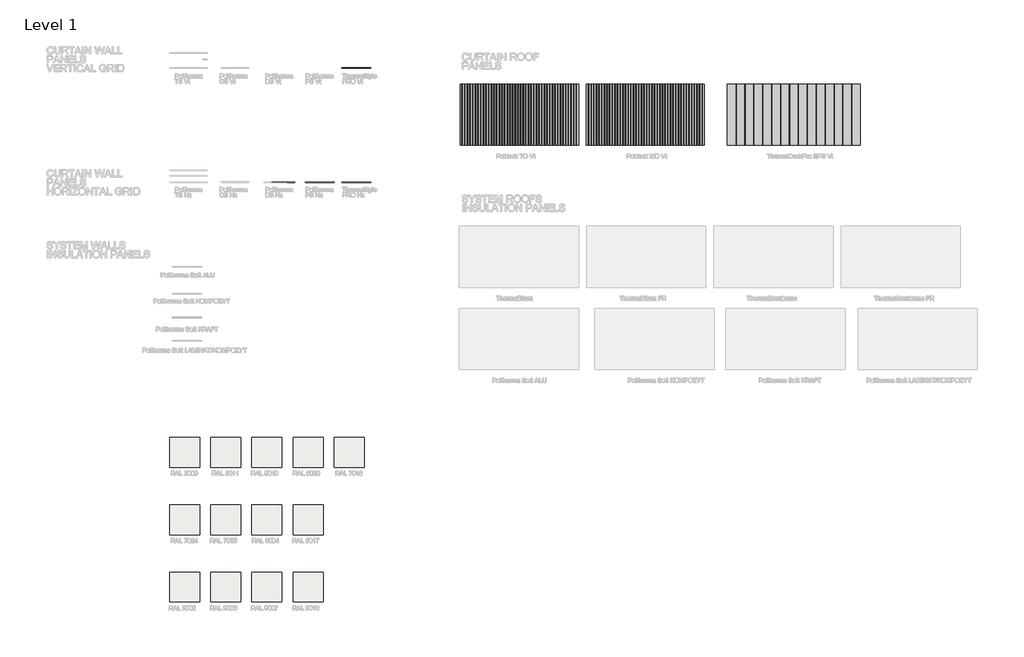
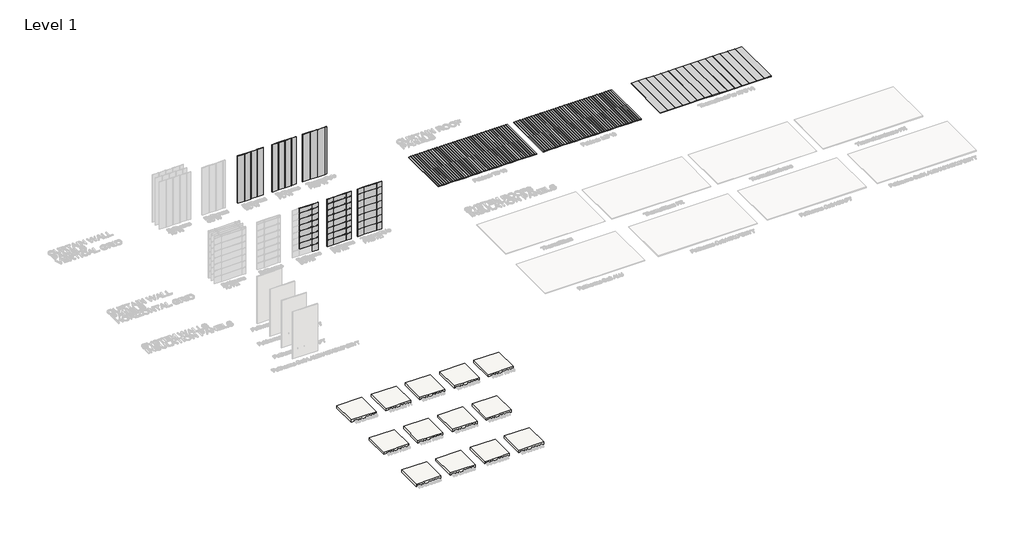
# One storey, part 2 of 27: 117 plates, 13 slabs.
"""IFC4 building model written with IfcOpenShell, lengths in millimetres."""

from ifc_helpers import new_model, si_unit, frame, origin, place, context, project, spatial, polyline, outline, extrude, transform, mapped, element, save
from components import plate_59d68982, plate_f1b753af, plate_dc32cb37, plate_fbea0b83, plate_fd181678, plate_b68348ad, poltherma_ds_100_d88b4380, poltherma_ds_100_de707eb4, poltherma_ds_100_a860b07c, poltherma_ds_100_4dea5682, poltherma_ds_100_0579be61, poltherma_ds_100_3d92d139, poltherma_ds_100_d9578bee, poltherma_ds_100_38a92bd1, poltherma_ps_100_a50b50c9, poltherma_ps_100_e579bfd0, poltherma_ps_100_14a29abd, poltherma_ps_100_926b12da, poltherma_ps_100_4dee80a4, poltherma_ps_100_4c77af7c, poltherma_ps_100_7ae31273, poltherma_ps_100_1a976a6a, poltherma_ps_100_5d9a283f, poltherma_ps_100_8c863d29, poltherma_ps_100_319f2d1b, poltherma_ps_100_62ddb752, thermadeck_pro_100_5b1dee86, thermadeck_pro_100_23aa4f16, thermadeck_pro_100_f66c599b, thermadeck_pro_100_954906a2, thermastyle_pro_100_76ed6ceb, thermastyle_pro_100_ce6bf896, thermastyle_pro_100_3951d848, thermastyle_pro_100_5ec8e953, thermastyle_pro_100_93a10a88, thermastyle_pro_100_44c17304, thermastyle_pro_100_a7823f5c, thermastyle_pro_100_2d84ebb2, thermastyle_pro_100_359290db, thermastyle_pro_100_d2d4a927, thermastyle_pro_100_f7ab4d4c, thermastyle_pro_100_ea0365a7

model = new_model("IFC4")

# Units and contexts
model_context = context("Model", 3, world=origin())
ifc_project = project(units=[si_unit("LENGTHUNIT", "METRE", prefix="MILLI")], contexts=[model_context])

# Site, building, storey
site = spatial("IfcSite", under=ifc_project)
building = spatial("IfcBuilding", under=site)
storey = spatial("IfcBuildingStorey", under=building, Name="Level 1", Elevation=0.0)

# Plates
placement = place(None, origin())
plate_shape = plate_59d68982(model_context)
element("IfcPlate", 1, ObjectType="Europanels_PolDeck TD T_Vt : PolDeck TD T 100/135", at=placement, inside=storey, context=model_context, shape_type="MappedRepresentation", body=[
    mapped(plate_shape, transform((26690.5428639, -5173.7876357, -69.4239875), x_axis=(1.0, 0.0, 0.0), y_axis=(0.0, 0.0, 1.0), z_axis=(0.0, -1.0, 0.0))),
])
plate_2_shape = plate_f1b753af(model_context)
element("IfcPlate", 2, ObjectType="Europanels_PolDeck TD T_Vt : PolDeck TD T 100/135", at=placement, inside=storey, context=model_context, shape_type="MappedRepresentation", body=[
    mapped(plate_2_shape, transform((27755.5428639, -5173.7876357, -69.4239875), x_axis=(1.0, 0.0, 0.0), y_axis=(0.0, 0.0, 1.0), z_axis=(0.0, -1.0, 0.0))),
])
element("IfcPlate", 3, ObjectType="Europanels_PolDeck TD T_Vt : PolDeck TD T 100/135", at=placement, inside=storey, context=model_context, shape_type="MappedRepresentation", body=[
    mapped(plate_2_shape, transform((28820.5428639, -5173.7876357, -69.4239875), x_axis=(1.0, 0.0, 0.0), y_axis=(0.0, 0.0, 1.0), z_axis=(0.0, -1.0, 0.0))),
])
element("IfcPlate", 4, ObjectType="Europanels_PolDeck TD T_Vt : PolDeck TD T 100/135", at=placement, inside=storey, context=model_context, shape_type="MappedRepresentation", body=[
    mapped(plate_2_shape, transform((29885.5428639, -5173.7876357, -69.4239875), x_axis=(1.0, 0.0, 0.0), y_axis=(0.0, 0.0, 1.0), z_axis=(0.0, -1.0, 0.0))),
])
element("IfcPlate", 5, ObjectType="Europanels_PolDeck TD T_Vt : PolDeck TD T 100/135", at=placement, inside=storey, context=model_context, shape_type="MappedRepresentation", body=[
    mapped(plate_2_shape, transform((30950.5428639, -5173.7876357, -69.4239875), x_axis=(1.0, 0.0, 0.0), y_axis=(0.0, 0.0, 1.0), z_axis=(0.0, -1.0, 0.0))),
])
element("IfcPlate", 6, ObjectType="Europanels_PolDeck TD T_Vt : PolDeck TD T 100/135", at=placement, inside=storey, context=model_context, shape_type="MappedRepresentation", body=[
    mapped(plate_2_shape, transform((32015.5428639, -5173.7876357, -69.4239875), x_axis=(1.0, 0.0, 0.0), y_axis=(0.0, 0.0, 1.0), z_axis=(0.0, -1.0, 0.0))),
])
element("IfcPlate", 7, ObjectType="Europanels_PolDeck TD T_Vt : PolDeck TD T 100/135", at=placement, inside=storey, context=model_context, shape_type="MappedRepresentation", body=[
    mapped(plate_2_shape, transform((33080.5428639, -5173.7876357, -69.4239875), x_axis=(1.0, 0.0, 0.0), y_axis=(0.0, 0.0, 1.0), z_axis=(0.0, -1.0, 0.0))),
])
element("IfcPlate", 8, ObjectType="Europanels_PolDeck TD T_Vt : PolDeck TD T 100/135", at=placement, inside=storey, context=model_context, shape_type="MappedRepresentation", body=[
    mapped(plate_2_shape, transform((34145.5428639, -5173.7876357, -69.4239875), x_axis=(1.0, 0.0, 0.0), y_axis=(0.0, 0.0, 1.0), z_axis=(0.0, -1.0, 0.0))),
])
element("IfcPlate", 9, ObjectType="Europanels_PolDeck TD T_Vt : PolDeck TD T 100/135", at=placement, inside=storey, context=model_context, shape_type="MappedRepresentation", body=[
    mapped(plate_2_shape, transform((35210.5428639, -5173.7876357, -69.4239875), x_axis=(1.0, 0.0, 0.0), y_axis=(0.0, 0.0, 1.0), z_axis=(0.0, -1.0, 0.0))),
])
element("IfcPlate", 10, ObjectType="Europanels_PolDeck TD T_Vt : PolDeck TD T 100/135", at=placement, inside=storey, context=model_context, shape_type="MappedRepresentation", body=[
    mapped(plate_2_shape, transform((36275.5428639, -5173.7876357, -69.4239875), x_axis=(1.0, 0.0, 0.0), y_axis=(0.0, 0.0, 1.0), z_axis=(0.0, -1.0, 0.0))),
])
element("IfcPlate", 11, ObjectType="Europanels_PolDeck TD T_Vt : PolDeck TD T 100/135", at=placement, inside=storey, context=model_context, shape_type="MappedRepresentation", body=[
    mapped(plate_2_shape, transform((37340.5428639, -5173.7876357, -69.4239875), x_axis=(1.0, 0.0, 0.0), y_axis=(0.0, 0.0, 1.0), z_axis=(0.0, -1.0, 0.0))),
])
element("IfcPlate", 12, ObjectType="Europanels_PolDeck TD T_Vt : PolDeck TD T 100/135", at=placement, inside=storey, context=model_context, shape_type="MappedRepresentation", body=[
    mapped(plate_2_shape, transform((38405.5428639, -5173.7876357, -69.4239875), x_axis=(1.0, 0.0, 0.0), y_axis=(0.0, 0.0, 1.0), z_axis=(0.0, -1.0, 0.0))),
])
element("IfcPlate", 13, ObjectType="Europanels_PolDeck TD T_Vt : PolDeck TD T 100/135", at=placement, inside=storey, context=model_context, shape_type="MappedRepresentation", body=[
    mapped(plate_2_shape, transform((39470.5428639, -5173.7876357, -69.4239875), x_axis=(1.0, 0.0, 0.0), y_axis=(0.0, 0.0, 1.0), z_axis=(0.0, -1.0, 0.0))),
])
element("IfcPlate", 14, ObjectType="Europanels_PolDeck TD T_Vt : PolDeck TD T 100/135", at=placement, inside=storey, context=model_context, shape_type="MappedRepresentation", body=[
    mapped(plate_2_shape, transform((40535.5428639, -5173.7876357, -69.4239875), x_axis=(1.0, 0.0, 0.0), y_axis=(0.0, 0.0, 1.0), z_axis=(0.0, -1.0, 0.0))),
])
plate_3_shape = plate_dc32cb37(model_context)
element("IfcPlate", 15, ObjectType="Europanels_PolDeck TD T_Vt : PolDeck TD T 100/135", at=placement, inside=storey, context=model_context, shape_type="MappedRepresentation", body=[
    mapped(plate_3_shape, transform((41578.5872578, -5173.7876357, -69.4239875), x_axis=(1.0, 0.0, 0.0), y_axis=(0.0, 0.0, 1.0), z_axis=(0.0, -1.0, 0.0))),
])
plate_4_shape = plate_fbea0b83(model_context)
element("IfcPlate", 16, ObjectType="Europanels_PolDeck MD T_Vt : PolDeck MD T 100/135", at=placement, inside=storey, context=model_context, shape_type="MappedRepresentation", body=[
    mapped(plate_4_shape, transform((43589.267781, -5173.7876357, -69.4239875), x_axis=(1.0, 0.0, 0.0), y_axis=(0.0, 0.0, 1.0), z_axis=(0.0, -1.0, 0.0))),
])
plate_5_shape = plate_fd181678(model_context)
element("IfcPlate", 17, ObjectType="Europanels_PolDeck MD T_Vt : PolDeck MD T 100/135", at=placement, inside=storey, context=model_context, shape_type="MappedRepresentation", body=[
    mapped(plate_5_shape, transform((44649.267781, -5173.7876357, -69.4239875), x_axis=(1.0, 0.0, 0.0), y_axis=(0.0, 0.0, 1.0), z_axis=(0.0, -1.0, 0.0))),
])
element("IfcPlate", 18, ObjectType="Europanels_PolDeck MD T_Vt : PolDeck MD T 100/135", at=placement, inside=storey, context=model_context, shape_type="MappedRepresentation", body=[
    mapped(plate_5_shape, transform((45709.267781, -5173.7876357, -69.4239875), x_axis=(1.0, 0.0, 0.0), y_axis=(0.0, 0.0, 1.0), z_axis=(0.0, -1.0, 0.0))),
])
element("IfcPlate", 19, ObjectType="Europanels_PolDeck MD T_Vt : PolDeck MD T 100/135", at=placement, inside=storey, context=model_context, shape_type="MappedRepresentation", body=[
    mapped(plate_5_shape, transform((46769.267781, -5173.7876357, -69.4239875), x_axis=(1.0, 0.0, 0.0), y_axis=(0.0, 0.0, 1.0), z_axis=(0.0, -1.0, 0.0))),
])
element("IfcPlate", 20, ObjectType="Europanels_PolDeck MD T_Vt : PolDeck MD T 100/135", at=placement, inside=storey, context=model_context, shape_type="MappedRepresentation", body=[
    mapped(plate_5_shape, transform((47829.267781, -5173.7876357, -69.4239875), x_axis=(1.0, 0.0, 0.0), y_axis=(0.0, 0.0, 1.0), z_axis=(0.0, -1.0, 0.0))),
])
element("IfcPlate", 21, ObjectType="Europanels_PolDeck MD T_Vt : PolDeck MD T 100/135", at=placement, inside=storey, context=model_context, shape_type="MappedRepresentation", body=[
    mapped(plate_5_shape, transform((48889.267781, -5173.7876357, -69.4239875), x_axis=(1.0, 0.0, 0.0), y_axis=(0.0, 0.0, 1.0), z_axis=(0.0, -1.0, 0.0))),
])
element("IfcPlate", 22, ObjectType="Europanels_PolDeck MD T_Vt : PolDeck MD T 100/135", at=placement, inside=storey, context=model_context, shape_type="MappedRepresentation", body=[
    mapped(plate_5_shape, transform((49949.267781, -5173.7876357, -69.4239875), x_axis=(1.0, 0.0, 0.0), y_axis=(0.0, 0.0, 1.0), z_axis=(0.0, -1.0, 0.0))),
])
element("IfcPlate", 23, ObjectType="Europanels_PolDeck MD T_Vt : PolDeck MD T 100/135", at=placement, inside=storey, context=model_context, shape_type="MappedRepresentation", body=[
    mapped(plate_5_shape, transform((51009.267781, -5173.7876357, -69.4239875), x_axis=(1.0, 0.0, 0.0), y_axis=(0.0, 0.0, 1.0), z_axis=(0.0, -1.0, 0.0))),
])
element("IfcPlate", 24, ObjectType="Europanels_PolDeck MD T_Vt : PolDeck MD T 100/135", at=placement, inside=storey, context=model_context, shape_type="MappedRepresentation", body=[
    mapped(plate_5_shape, transform((52069.267781, -5173.7876357, -69.4239875), x_axis=(1.0, 0.0, 0.0), y_axis=(0.0, 0.0, 1.0), z_axis=(0.0, -1.0, 0.0))),
])
element("IfcPlate", 25, ObjectType="Europanels_PolDeck MD T_Vt : PolDeck MD T 100/135", at=placement, inside=storey, context=model_context, shape_type="MappedRepresentation", body=[
    mapped(plate_5_shape, transform((53129.267781, -5173.7876357, -69.4239875), x_axis=(1.0, 0.0, 0.0), y_axis=(0.0, 0.0, 1.0), z_axis=(0.0, -1.0, 0.0))),
])
element("IfcPlate", 26, ObjectType="Europanels_PolDeck MD T_Vt : PolDeck MD T 100/135", at=placement, inside=storey, context=model_context, shape_type="MappedRepresentation", body=[
    mapped(plate_5_shape, transform((54189.267781, -5173.7876357, -69.4239875), x_axis=(1.0, 0.0, 0.0), y_axis=(0.0, 0.0, 1.0), z_axis=(0.0, -1.0, 0.0))),
])
element("IfcPlate", 27, ObjectType="Europanels_PolDeck MD T_Vt : PolDeck MD T 100/135", at=placement, inside=storey, context=model_context, shape_type="MappedRepresentation", body=[
    mapped(plate_5_shape, transform((55249.267781, -5173.7876357, -69.4239875), x_axis=(1.0, 0.0, 0.0), y_axis=(0.0, 0.0, 1.0), z_axis=(0.0, -1.0, 0.0))),
])
element("IfcPlate", 28, ObjectType="Europanels_PolDeck MD T_Vt : PolDeck MD T 100/135", at=placement, inside=storey, context=model_context, shape_type="MappedRepresentation", body=[
    mapped(plate_5_shape, transform((56309.267781, -5173.7876357, -69.4239875), x_axis=(1.0, 0.0, 0.0), y_axis=(0.0, 0.0, 1.0), z_axis=(0.0, -1.0, 0.0))),
])
element("IfcPlate", 29, ObjectType="Europanels_PolDeck MD T_Vt : PolDeck MD T 100/135", at=placement, inside=storey, context=model_context, shape_type="MappedRepresentation", body=[
    mapped(plate_5_shape, transform((57369.267781, -5173.7876357, -69.4239875), x_axis=(1.0, 0.0, 0.0), y_axis=(0.0, 0.0, 1.0), z_axis=(0.0, -1.0, 0.0))),
])
plate_6_shape = plate_b68348ad(model_context)
element("IfcPlate", 30, ObjectType="Europanels_PolDeck MD T_Vt : PolDeck MD T 100/135", at=placement, inside=storey, context=model_context, shape_type="MappedRepresentation", body=[
    mapped(plate_6_shape, transform((58367.6899424, -5173.7876357, -69.4239875), x_axis=(1.0, 0.0, 0.0), y_axis=(0.0, 0.0, 1.0), z_axis=(0.0, -1.0, 0.0))),
])
poltherma_ds_100_shape = poltherma_ds_100_d88b4380(model_context)
element("IfcPlate", 31, ObjectType="Europanels_Poltherma DS_Hz : PolTherma DS 100", at=placement, inside=storey, context=model_context, shape_type="MappedRepresentation", body=[
    mapped(poltherma_ds_100_shape, transform((3611.7874403, -18297.4348092, 0.0), x_axis=(1.0, 0.0, 0.0), y_axis=(0.0, 1.0, 0.0), z_axis=(0.0, 0.0, 1.0))),
])
poltherma_ds_100_2_shape = poltherma_ds_100_de707eb4(model_context)
element("IfcPlate", 32, ObjectType="Europanels_Poltherma DS_Hz : PolTherma DS 100", at=placement, inside=storey, context=model_context, shape_type="MappedRepresentation", body=[
    mapped(poltherma_ds_100_2_shape, transform((3611.7874403, -18297.4348092, 1025.0), x_axis=(1.0, 0.0, 0.0), y_axis=(0.0, 1.0, 0.0), z_axis=(0.0, 0.0, 1.0))),
])
element("IfcPlate", 33, ObjectType="Europanels_Poltherma DS_Hz : PolTherma DS 100", at=placement, inside=storey, context=model_context, shape_type="MappedRepresentation", body=[
    mapped(poltherma_ds_100_2_shape, transform((3611.7874403, -18297.4348092, 2050.0), x_axis=(1.0, 0.0, 0.0), y_axis=(0.0, 1.0, 0.0), z_axis=(0.0, 0.0, 1.0))),
])
element("IfcPlate", 34, ObjectType="Europanels_Poltherma DS_Hz : PolTherma DS 100", at=placement, inside=storey, context=model_context, shape_type="MappedRepresentation", body=[
    mapped(poltherma_ds_100_2_shape, transform((3611.7874403, -18297.4348092, 3075.0), x_axis=(1.0, 0.0, 0.0), y_axis=(0.0, 1.0, 0.0), z_axis=(0.0, 0.0, 1.0))),
])
element("IfcPlate", 35, ObjectType="Europanels_Poltherma DS_Hz : PolTherma DS 100", at=placement, inside=storey, context=model_context, shape_type="MappedRepresentation", body=[
    mapped(poltherma_ds_100_2_shape, transform((3611.7874403, -18297.4348092, 4100.0), x_axis=(1.0, 0.0, 0.0), y_axis=(0.0, 1.0, 0.0), z_axis=(0.0, 0.0, 1.0))),
])
element("IfcPlate", 36, ObjectType="Europanels_Poltherma DS_Hz : PolTherma DS 100", at=placement, inside=storey, context=model_context, shape_type="MappedRepresentation", body=[
    mapped(poltherma_ds_100_2_shape, transform((3611.7874403, -18297.4348092, 5125.0), x_axis=(1.0, 0.0, 0.0), y_axis=(0.0, 1.0, 0.0), z_axis=(0.0, 0.0, 1.0))),
])
element("IfcPlate", 37, ObjectType="Europanels_Poltherma DS_Hz : PolTherma DS 100", at=placement, inside=storey, context=model_context, shape_type="MappedRepresentation", body=[
    mapped(poltherma_ds_100_2_shape, transform((3611.7874403, -18297.4348092, 6150.0), x_axis=(1.0, 0.0, 0.0), y_axis=(0.0, 1.0, 0.0), z_axis=(0.0, 0.0, 1.0))),
])
poltherma_ds_100_3_shape = poltherma_ds_100_a860b07c(model_context)
element("IfcPlate", 38, ObjectType="Europanels_Poltherma DS_Hz : PolTherma DS 100", at=placement, inside=storey, context=model_context, shape_type="MappedRepresentation", body=[
    mapped(poltherma_ds_100_3_shape, transform((2074.2874403, -18297.4348092, 1025.0), x_axis=(1.0, 0.0, 0.0), y_axis=(0.0, 1.0, 0.0), z_axis=(0.0, 0.0, 1.0))),
])
element("IfcPlate", 39, ObjectType="Europanels_Poltherma DS_Hz : PolTherma DS 100", at=placement, inside=storey, context=model_context, shape_type="MappedRepresentation", body=[
    mapped(poltherma_ds_100_3_shape, transform((2074.2874403, -18297.4348092, 2050.0), x_axis=(1.0, 0.0, 0.0), y_axis=(0.0, 1.0, 0.0), z_axis=(0.0, 0.0, 1.0))),
])
element("IfcPlate", 40, ObjectType="Europanels_Poltherma DS_Hz : PolTherma DS 100", at=placement, inside=storey, context=model_context, shape_type="MappedRepresentation", body=[
    mapped(poltherma_ds_100_3_shape, transform((2074.2874403, -18297.4348092, 3075.0), x_axis=(1.0, 0.0, 0.0), y_axis=(0.0, 1.0, 0.0), z_axis=(0.0, 0.0, 1.0))),
])
element("IfcPlate", 41, ObjectType="Europanels_Poltherma DS_Hz : PolTherma DS 100", at=placement, inside=storey, context=model_context, shape_type="MappedRepresentation", body=[
    mapped(poltherma_ds_100_3_shape, transform((2074.2874403, -18297.4348092, 4100.0), x_axis=(1.0, 0.0, 0.0), y_axis=(0.0, 1.0, 0.0), z_axis=(0.0, 0.0, 1.0))),
])
element("IfcPlate", 42, ObjectType="Europanels_Poltherma DS_Hz : PolTherma DS 100", at=placement, inside=storey, context=model_context, shape_type="MappedRepresentation", body=[
    mapped(poltherma_ds_100_3_shape, transform((2074.2874403, -18297.4348092, 5125.0), x_axis=(1.0, 0.0, 0.0), y_axis=(0.0, 1.0, 0.0), z_axis=(0.0, 0.0, 1.0))),
])
element("IfcPlate", 43, ObjectType="Europanels_Poltherma DS_Hz : PolTherma DS 100", at=placement, inside=storey, context=model_context, shape_type="MappedRepresentation", body=[
    mapped(poltherma_ds_100_3_shape, transform((2074.2874403, -18297.4348092, 6150.0), x_axis=(1.0, 0.0, 0.0), y_axis=(0.0, 1.0, 0.0), z_axis=(0.0, 0.0, 1.0))),
])
poltherma_ds_100_4_shape = poltherma_ds_100_4dea5682(model_context)
element("IfcPlate", 44, ObjectType="Europanels_Poltherma DS_Hz : PolTherma DS 100", at=placement, inside=storey, context=model_context, shape_type="MappedRepresentation", body=[
    mapped(poltherma_ds_100_4_shape, transform((3611.7874403, -18297.4348092, 7175.0), x_axis=(1.0, 0.0, 0.0), y_axis=(0.0, 1.0, 0.0), z_axis=(0.0, 0.0, 1.0))),
])
poltherma_ds_100_5_shape = poltherma_ds_100_0579be61(model_context)
element("IfcPlate", 45, ObjectType="Europanels_Poltherma DS_Hz : PolTherma DS 100", at=placement, inside=storey, context=model_context, shape_type="MappedRepresentation", body=[
    mapped(poltherma_ds_100_5_shape, transform((2074.2874403, -18297.4348092, 7175.0), x_axis=(1.0, 0.0, 0.0), y_axis=(0.0, 1.0, 0.0), z_axis=(0.0, 0.0, 1.0))),
])
poltherma_ds_100_6_shape = poltherma_ds_100_3d92d139(model_context)
element("IfcPlate", 46, ObjectType="Europanels_Poltherma DS_Vt : PolTherma DS 100", at=placement, inside=storey, context=model_context, shape_type="MappedRepresentation", body=[
    mapped(poltherma_ds_100_6_shape, transform((536.7874403, -2997.4348092, 0.0), x_axis=(1.0, 0.0, 0.0), y_axis=(0.0, 1.0, 0.0), z_axis=(0.0, 0.0, 1.0))),
])
poltherma_ds_100_7_shape = poltherma_ds_100_d9578bee(model_context)
element("IfcPlate", 47, ObjectType="Europanels_Poltherma DS_Vt : PolTherma DS 100", at=placement, inside=storey, context=model_context, shape_type="MappedRepresentation", body=[
    mapped(poltherma_ds_100_7_shape, transform((1561.7874403, -2997.4348092, 0.0), x_axis=(1.0, 0.0, 0.0), y_axis=(0.0, 1.0, 0.0), z_axis=(0.0, 0.0, 1.0))),
])
element("IfcPlate", 48, ObjectType="Europanels_Poltherma DS_Vt : PolTherma DS 100", at=placement, inside=storey, context=model_context, shape_type="MappedRepresentation", body=[
    mapped(poltherma_ds_100_7_shape, transform((2586.7874403, -2997.4348092, 0.0), x_axis=(1.0, 0.0, 0.0), y_axis=(0.0, 1.0, 0.0), z_axis=(0.0, 0.0, 1.0))),
])
poltherma_ds_100_8_shape = poltherma_ds_100_38a92bd1(model_context)
element("IfcPlate", 49, ObjectType="Europanels_Poltherma DS_Vt : PolTherma DS 100", at=placement, inside=storey, context=model_context, shape_type="MappedRepresentation", body=[
    mapped(poltherma_ds_100_8_shape, transform((3611.7874403, -2997.4348092, 0.0), x_axis=(1.0, 0.0, 0.0), y_axis=(0.0, 1.0, 0.0), z_axis=(0.0, 0.0, 1.0))),
])
poltherma_ps_100_shape = poltherma_ps_100_a50b50c9(model_context)
element("IfcPlate", 50, ObjectType="Europanels_Poltherma PS_Hz : PolTherma PS 100", at=placement, inside=storey, context=model_context, shape_type="MappedRepresentation", body=[
    mapped(poltherma_ps_100_shape, transform((6036.7874403, -18297.4348092, 0.0), x_axis=(1.0, 0.0, 0.0), y_axis=(0.0, 1.0, 0.0), z_axis=(0.0, 0.0, 1.0))),
])
poltherma_ps_100_2_shape = poltherma_ps_100_e579bfd0(model_context)
element("IfcPlate", 51, ObjectType="Europanels_Poltherma PS_Hz : PolTherma PS 100", at=placement, inside=storey, context=model_context, shape_type="MappedRepresentation", body=[
    mapped(poltherma_ps_100_2_shape, transform((7574.2874403, -18297.4348092, 0.0), x_axis=(1.0, 0.0, 0.0), y_axis=(0.0, 1.0, 0.0), z_axis=(0.0, 0.0, 1.0))),
])
poltherma_ps_100_3_shape = poltherma_ps_100_14a29abd(model_context)
element("IfcPlate", 52, ObjectType="Europanels_Poltherma PS_Hz : PolTherma PS 100", at=placement, inside=storey, context=model_context, shape_type="MappedRepresentation", body=[
    mapped(poltherma_ps_100_3_shape, transform((9011.7874403, -18297.4348092, 0.0), x_axis=(1.0, 0.0, 0.0), y_axis=(0.0, 1.0, 0.0), z_axis=(0.0, 0.0, 1.0))),
])
poltherma_ps_100_4_shape = poltherma_ps_100_926b12da(model_context)
element("IfcPlate", 53, ObjectType="Europanels_Poltherma PS_Hz : PolTherma PS 100", at=placement, inside=storey, context=model_context, shape_type="MappedRepresentation", body=[
    mapped(poltherma_ps_100_4_shape, transform((6036.7874403, -18297.4348092, 1025.0), x_axis=(1.0, 0.0, 0.0), y_axis=(0.0, 1.0, 0.0), z_axis=(0.0, 0.0, 1.0))),
])
element("IfcPlate", 54, ObjectType="Europanels_Poltherma PS_Hz : PolTherma PS 100", at=placement, inside=storey, context=model_context, shape_type="MappedRepresentation", body=[
    mapped(poltherma_ps_100_4_shape, transform((6036.7874403, -18297.4348092, 2050.0), x_axis=(1.0, 0.0, 0.0), y_axis=(0.0, 1.0, 0.0), z_axis=(0.0, 0.0, 1.0))),
])
element("IfcPlate", 55, ObjectType="Europanels_Poltherma PS_Hz : PolTherma PS 100", at=placement, inside=storey, context=model_context, shape_type="MappedRepresentation", body=[
    mapped(poltherma_ps_100_4_shape, transform((6036.7874403, -18297.4348092, 3075.0), x_axis=(1.0, 0.0, 0.0), y_axis=(0.0, 1.0, 0.0), z_axis=(0.0, 0.0, 1.0))),
])
element("IfcPlate", 56, ObjectType="Europanels_Poltherma PS_Hz : PolTherma PS 100", at=placement, inside=storey, context=model_context, shape_type="MappedRepresentation", body=[
    mapped(poltherma_ps_100_4_shape, transform((6036.7874403, -18297.4348092, 4100.0), x_axis=(1.0, 0.0, 0.0), y_axis=(0.0, 1.0, 0.0), z_axis=(0.0, 0.0, 1.0))),
])
element("IfcPlate", 57, ObjectType="Europanels_Poltherma PS_Hz : PolTherma PS 100", at=placement, inside=storey, context=model_context, shape_type="MappedRepresentation", body=[
    mapped(poltherma_ps_100_4_shape, transform((6036.7874403, -18297.4348092, 5125.0), x_axis=(1.0, 0.0, 0.0), y_axis=(0.0, 1.0, 0.0), z_axis=(0.0, 0.0, 1.0))),
])
element("IfcPlate", 58, ObjectType="Europanels_Poltherma PS_Hz : PolTherma PS 100", at=placement, inside=storey, context=model_context, shape_type="MappedRepresentation", body=[
    mapped(poltherma_ps_100_4_shape, transform((6036.7874403, -18297.4348092, 6150.0), x_axis=(1.0, 0.0, 0.0), y_axis=(0.0, 1.0, 0.0), z_axis=(0.0, 0.0, 1.0))),
])
poltherma_ps_100_5_shape = poltherma_ps_100_4dee80a4(model_context)
element("IfcPlate", 59, ObjectType="Europanels_Poltherma PS_Hz : PolTherma PS 100", at=placement, inside=storey, context=model_context, shape_type="MappedRepresentation", body=[
    mapped(poltherma_ps_100_5_shape, transform((7574.2874403, -18297.4348092, 1025.0), x_axis=(1.0, 0.0, 0.0), y_axis=(0.0, 1.0, 0.0), z_axis=(0.0, 0.0, 1.0))),
])
element("IfcPlate", 60, ObjectType="Europanels_Poltherma PS_Hz : PolTherma PS 100", at=placement, inside=storey, context=model_context, shape_type="MappedRepresentation", body=[
    mapped(poltherma_ps_100_5_shape, transform((7574.2874403, -18297.4348092, 2050.0), x_axis=(1.0, 0.0, 0.0), y_axis=(0.0, 1.0, 0.0), z_axis=(0.0, 0.0, 1.0))),
])
element("IfcPlate", 61, ObjectType="Europanels_Poltherma PS_Hz : PolTherma PS 100", at=placement, inside=storey, context=model_context, shape_type="MappedRepresentation", body=[
    mapped(poltherma_ps_100_5_shape, transform((7574.2874403, -18297.4348092, 3075.0), x_axis=(1.0, 0.0, 0.0), y_axis=(0.0, 1.0, 0.0), z_axis=(0.0, 0.0, 1.0))),
])
element("IfcPlate", 62, ObjectType="Europanels_Poltherma PS_Hz : PolTherma PS 100", at=placement, inside=storey, context=model_context, shape_type="MappedRepresentation", body=[
    mapped(poltherma_ps_100_5_shape, transform((7574.2874403, -18297.4348092, 4100.0), x_axis=(1.0, 0.0, 0.0), y_axis=(0.0, 1.0, 0.0), z_axis=(0.0, 0.0, 1.0))),
])
element("IfcPlate", 63, ObjectType="Europanels_Poltherma PS_Hz : PolTherma PS 100", at=placement, inside=storey, context=model_context, shape_type="MappedRepresentation", body=[
    mapped(poltherma_ps_100_5_shape, transform((7574.2874403, -18297.4348092, 5125.0), x_axis=(1.0, 0.0, 0.0), y_axis=(0.0, 1.0, 0.0), z_axis=(0.0, 0.0, 1.0))),
])
element("IfcPlate", 64, ObjectType="Europanels_Poltherma PS_Hz : PolTherma PS 100", at=placement, inside=storey, context=model_context, shape_type="MappedRepresentation", body=[
    mapped(poltherma_ps_100_5_shape, transform((7574.2874403, -18297.4348092, 6150.0), x_axis=(1.0, 0.0, 0.0), y_axis=(0.0, 1.0, 0.0), z_axis=(0.0, 0.0, 1.0))),
])
poltherma_ps_100_6_shape = poltherma_ps_100_4c77af7c(model_context)
element("IfcPlate", 65, ObjectType="Europanels_Poltherma PS_Hz : PolTherma PS 100", at=placement, inside=storey, context=model_context, shape_type="MappedRepresentation", body=[
    mapped(poltherma_ps_100_6_shape, transform((9011.7874403, -18297.4348092, 1025.0), x_axis=(1.0, 0.0, 0.0), y_axis=(0.0, 1.0, 0.0), z_axis=(0.0, 0.0, 1.0))),
])
element("IfcPlate", 66, ObjectType="Europanels_Poltherma PS_Hz : PolTherma PS 100", at=placement, inside=storey, context=model_context, shape_type="MappedRepresentation", body=[
    mapped(poltherma_ps_100_6_shape, transform((9011.7874403, -18297.4348092, 2050.0), x_axis=(1.0, 0.0, 0.0), y_axis=(0.0, 1.0, 0.0), z_axis=(0.0, 0.0, 1.0))),
])
element("IfcPlate", 67, ObjectType="Europanels_Poltherma PS_Hz : PolTherma PS 100", at=placement, inside=storey, context=model_context, shape_type="MappedRepresentation", body=[
    mapped(poltherma_ps_100_6_shape, transform((9011.7874403, -18297.4348092, 3075.0), x_axis=(1.0, 0.0, 0.0), y_axis=(0.0, 1.0, 0.0), z_axis=(0.0, 0.0, 1.0))),
])
element("IfcPlate", 68, ObjectType="Europanels_Poltherma PS_Hz : PolTherma PS 100", at=placement, inside=storey, context=model_context, shape_type="MappedRepresentation", body=[
    mapped(poltherma_ps_100_6_shape, transform((9011.7874403, -18297.4348092, 4100.0), x_axis=(1.0, 0.0, 0.0), y_axis=(0.0, 1.0, 0.0), z_axis=(0.0, 0.0, 1.0))),
])
element("IfcPlate", 69, ObjectType="Europanels_Poltherma PS_Hz : PolTherma PS 100", at=placement, inside=storey, context=model_context, shape_type="MappedRepresentation", body=[
    mapped(poltherma_ps_100_6_shape, transform((9011.7874403, -18297.4348092, 5125.0), x_axis=(1.0, 0.0, 0.0), y_axis=(0.0, 1.0, 0.0), z_axis=(0.0, 0.0, 1.0))),
])
element("IfcPlate", 70, ObjectType="Europanels_Poltherma PS_Hz : PolTherma PS 100", at=placement, inside=storey, context=model_context, shape_type="MappedRepresentation", body=[
    mapped(poltherma_ps_100_6_shape, transform((9011.7874403, -18297.4348092, 6150.0), x_axis=(1.0, 0.0, 0.0), y_axis=(0.0, 1.0, 0.0), z_axis=(0.0, 0.0, 1.0))),
])
poltherma_ps_100_7_shape = poltherma_ps_100_7ae31273(model_context)
element("IfcPlate", 71, ObjectType="Europanels_Poltherma PS_Hz : PolTherma PS 100", at=placement, inside=storey, context=model_context, shape_type="MappedRepresentation", body=[
    mapped(poltherma_ps_100_7_shape, transform((6036.7874403, -18297.4348092, 7175.0), x_axis=(1.0, 0.0, 0.0), y_axis=(0.0, 1.0, 0.0), z_axis=(0.0, 0.0, 1.0))),
])
poltherma_ps_100_8_shape = poltherma_ps_100_1a976a6a(model_context)
element("IfcPlate", 72, ObjectType="Europanels_Poltherma PS_Hz : PolTherma PS 100", at=placement, inside=storey, context=model_context, shape_type="MappedRepresentation", body=[
    mapped(poltherma_ps_100_8_shape, transform((7574.2874403, -18297.4348092, 7175.0), x_axis=(1.0, 0.0, 0.0), y_axis=(0.0, 1.0, 0.0), z_axis=(0.0, 0.0, 1.0))),
])
poltherma_ps_100_9_shape = poltherma_ps_100_5d9a283f(model_context)
element("IfcPlate", 73, ObjectType="Europanels_Poltherma PS_Hz : PolTherma PS 100", at=placement, inside=storey, context=model_context, shape_type="MappedRepresentation", body=[
    mapped(poltherma_ps_100_9_shape, transform((9011.7874403, -18297.4348092, 7175.0), x_axis=(1.0, 0.0, 0.0), y_axis=(0.0, 1.0, 0.0), z_axis=(0.0, 0.0, 1.0))),
])
poltherma_ps_100_10_shape = poltherma_ps_100_8c863d29(model_context)
element("IfcPlate", 74, ObjectType="Europanels_Poltherma PS_Vt : PolTherma PS 100", at=placement, inside=storey, context=model_context, shape_type="MappedRepresentation", body=[
    mapped(poltherma_ps_100_10_shape, transform((6036.7874403, -2997.4348092, 0.0), x_axis=(1.0, 0.0, 0.0), y_axis=(0.0, 1.0, 0.0), z_axis=(0.0, 0.0, 1.0))),
])
poltherma_ps_100_11_shape = poltherma_ps_100_319f2d1b(model_context)
element("IfcPlate", 75, ObjectType="Europanels_Poltherma PS_Vt : PolTherma PS 100", at=placement, inside=storey, context=model_context, shape_type="MappedRepresentation", body=[
    mapped(poltherma_ps_100_11_shape, transform((7061.7874403, -2997.4348092, 0.0), x_axis=(1.0, 0.0, 0.0), y_axis=(0.0, 1.0, 0.0), z_axis=(0.0, 0.0, 1.0))),
])
element("IfcPlate", 76, ObjectType="Europanels_Poltherma PS_Vt : PolTherma PS 100", at=placement, inside=storey, context=model_context, shape_type="MappedRepresentation", body=[
    mapped(poltherma_ps_100_11_shape, transform((8086.7874403, -2997.4348092, 0.0), x_axis=(1.0, 0.0, 0.0), y_axis=(0.0, 1.0, 0.0), z_axis=(0.0, 0.0, 1.0))),
])
poltherma_ps_100_12_shape = poltherma_ps_100_62ddb752(model_context)
element("IfcPlate", 77, ObjectType="Europanels_Poltherma PS_Vt : PolTherma PS 100", at=placement, inside=storey, context=model_context, shape_type="MappedRepresentation", body=[
    mapped(poltherma_ps_100_12_shape, transform((9011.7874403, -2997.4348092, 0.0), x_axis=(1.0, 0.0, 0.0), y_axis=(0.0, 1.0, 0.0), z_axis=(0.0, 0.0, 1.0))),
])
thermadeck_pro_100_shape = thermadeck_pro_100_5b1dee86(model_context)
element("IfcPlate", 78, ObjectType="Europanels_ThermaDeck PRO_Vt : ThermaDeck PRO 100", at=placement, inside=storey, context=model_context, shape_type="MappedRepresentation", body=[
    mapped(thermadeck_pro_100_shape, transform((62537.7858545, -5173.7876357, -69.4239875), x_axis=(1.0, 0.0, 0.0), y_axis=(0.0, 0.0, 1.0), z_axis=(0.0, -1.0, 0.0))),
])
thermadeck_pro_100_2_shape = thermadeck_pro_100_23aa4f16(model_context)
element("IfcPlate", 79, ObjectType="Europanels_ThermaDeck PRO_Vt : ThermaDeck PRO 100", at=placement, inside=storey, context=model_context, shape_type="MappedRepresentation", body=[
    mapped(thermadeck_pro_100_2_shape, transform((63727.7858545, -5173.7876357, -69.4239875), x_axis=(1.0, 0.0, 0.0), y_axis=(0.0, 0.0, 1.0), z_axis=(0.0, -1.0, 0.0))),
])
element("IfcPlate", 80, ObjectType="Europanels_ThermaDeck PRO_Vt : ThermaDeck PRO 100", at=placement, inside=storey, context=model_context, shape_type="MappedRepresentation", body=[
    mapped(thermadeck_pro_100_2_shape, transform((64917.7858545, -5173.7876357, -69.4239875), x_axis=(1.0, 0.0, 0.0), y_axis=(0.0, 0.0, 1.0), z_axis=(0.0, -1.0, 0.0))),
])
element("IfcPlate", 81, ObjectType="Europanels_ThermaDeck PRO_Vt : ThermaDeck PRO 100", at=placement, inside=storey, context=model_context, shape_type="MappedRepresentation", body=[
    mapped(thermadeck_pro_100_2_shape, transform((66107.7858545, -5173.7876357, -69.4239875), x_axis=(1.0, 0.0, 0.0), y_axis=(0.0, 0.0, 1.0), z_axis=(0.0, -1.0, 0.0))),
])
element("IfcPlate", 82, ObjectType="Europanels_ThermaDeck PRO_Vt : ThermaDeck PRO 100", at=placement, inside=storey, context=model_context, shape_type="MappedRepresentation", body=[
    mapped(thermadeck_pro_100_2_shape, transform((67297.7858545, -5173.7876357, -69.4239875), x_axis=(1.0, 0.0, 0.0), y_axis=(0.0, 0.0, 1.0), z_axis=(0.0, -1.0, 0.0))),
])
element("IfcPlate", 83, ObjectType="Europanels_ThermaDeck PRO_Vt : ThermaDeck PRO 100", at=placement, inside=storey, context=model_context, shape_type="MappedRepresentation", body=[
    mapped(thermadeck_pro_100_2_shape, transform((68487.7858545, -5173.7876357, -69.4239875), x_axis=(1.0, 0.0, 0.0), y_axis=(0.0, 0.0, 1.0), z_axis=(0.0, -1.0, 0.0))),
])
element("IfcPlate", 84, ObjectType="Europanels_ThermaDeck PRO_Vt : ThermaDeck PRO 100", at=placement, inside=storey, context=model_context, shape_type="MappedRepresentation", body=[
    mapped(thermadeck_pro_100_2_shape, transform((69677.7858545, -5173.7876357, -69.4239875), x_axis=(1.0, 0.0, 0.0), y_axis=(0.0, 0.0, 1.0), z_axis=(0.0, -1.0, 0.0))),
])
element("IfcPlate", 85, ObjectType="Europanels_ThermaDeck PRO_Vt : ThermaDeck PRO 100", at=placement, inside=storey, context=model_context, shape_type="MappedRepresentation", body=[
    mapped(thermadeck_pro_100_2_shape, transform((70867.7858545, -5173.7876357, -69.4239875), x_axis=(1.0, 0.0, 0.0), y_axis=(0.0, 0.0, 1.0), z_axis=(0.0, -1.0, 0.0))),
])
element("IfcPlate", 86, ObjectType="Europanels_ThermaDeck PRO_Vt : ThermaDeck PRO 100", at=placement, inside=storey, context=model_context, shape_type="MappedRepresentation", body=[
    mapped(thermadeck_pro_100_2_shape, transform((72057.7858545, -5173.7876357, -69.4239875), x_axis=(1.0, 0.0, 0.0), y_axis=(0.0, 0.0, 1.0), z_axis=(0.0, -1.0, 0.0))),
])
element("IfcPlate", 87, ObjectType="Europanels_ThermaDeck PRO_Vt : ThermaDeck PRO 100", at=placement, inside=storey, context=model_context, shape_type="MappedRepresentation", body=[
    mapped(thermadeck_pro_100_2_shape, transform((73247.7858545, -5173.7876357, -69.4239875), x_axis=(1.0, 0.0, 0.0), y_axis=(0.0, 0.0, 1.0), z_axis=(0.0, -1.0, 0.0))),
])
element("IfcPlate", 88, ObjectType="Europanels_ThermaDeck PRO_Vt : ThermaDeck PRO 100", at=placement, inside=storey, context=model_context, shape_type="MappedRepresentation", body=[
    mapped(thermadeck_pro_100_2_shape, transform((74437.7858545, -5173.7876357, -69.4239875), x_axis=(1.0, 0.0, 0.0), y_axis=(0.0, 0.0, 1.0), z_axis=(0.0, -1.0, 0.0))),
])
element("IfcPlate", 89, ObjectType="Europanels_ThermaDeck PRO_Vt : ThermaDeck PRO 100", at=placement, inside=storey, context=model_context, shape_type="MappedRepresentation", body=[
    mapped(thermadeck_pro_100_2_shape, transform((75627.7858545, -5173.7876357, -69.4239875), x_axis=(1.0, 0.0, 0.0), y_axis=(0.0, 0.0, 1.0), z_axis=(0.0, -1.0, 0.0))),
])
element("IfcPlate", 90, ObjectType="Europanels_ThermaDeck PRO_Vt : ThermaDeck PRO 100", at=placement, inside=storey, context=model_context, shape_type="MappedRepresentation", body=[
    mapped(thermadeck_pro_100_2_shape, transform((76817.7858545, -5173.7876357, -69.4239875), x_axis=(1.0, 0.0, 0.0), y_axis=(0.0, 0.0, 1.0), z_axis=(0.0, -1.0, 0.0))),
])
thermadeck_pro_100_3_shape = thermadeck_pro_100_f66c599b(model_context)
element("IfcPlate", 91, ObjectType="Europanels_ThermaDeck PRO_Vt : ThermaDeck PRO 100", at=placement, inside=storey, context=model_context, shape_type="MappedRepresentation", body=[
    mapped(thermadeck_pro_100_3_shape, transform((78007.7858545, -5173.7876357, -69.4239875), x_axis=(1.0, 0.0, 0.0), y_axis=(0.0, 0.0, 1.0), z_axis=(0.0, -1.0, 0.0))),
])
thermadeck_pro_100_4_shape = thermadeck_pro_100_954906a2(model_context)
element("IfcPlate", 92, ObjectType="Europanels_ThermaDeck PRO_Vt : ThermaDeck PRO 100", at=placement, inside=storey, context=model_context, shape_type="MappedRepresentation", body=[
    mapped(thermadeck_pro_100_4_shape, transform((79178.7664931, -5173.7876357, -69.4239875), x_axis=(1.0, 0.0, 0.0), y_axis=(0.0, 0.0, 1.0), z_axis=(0.0, -1.0, 0.0))),
])
thermastyle_pro_100_shape = thermastyle_pro_100_76ed6ceb(model_context)
element("IfcPlate", 93, ObjectType="Europanels_ThermaStyle PRO_Vt : ThermaStyle PRO 100", at=placement, inside=storey, context=model_context, shape_type="MappedRepresentation", body=[
    mapped(thermastyle_pro_100_shape, transform((11019.2874403, -2997.4348092, 0.0), x_axis=(1.0, 0.0, 0.0), y_axis=(0.0, 1.0, 0.0), z_axis=(0.0, 0.0, 1.0))),
])
thermastyle_pro_100_2_shape = thermastyle_pro_100_ce6bf896(model_context)
element("IfcPlate", 94, ObjectType="Europanels_ThermaStyle PRO_Vt : ThermaStyle PRO 100", at=placement, inside=storey, context=model_context, shape_type="MappedRepresentation", body=[
    mapped(thermastyle_pro_100_2_shape, transform((12209.2874403, -2997.4348092, 0.0), x_axis=(1.0, 0.0, 0.0), y_axis=(0.0, 1.0, 0.0), z_axis=(0.0, 0.0, 1.0))),
])
element("IfcPlate", 95, ObjectType="Europanels_ThermaStyle PRO_Vt : ThermaStyle PRO 100", at=placement, inside=storey, context=model_context, shape_type="MappedRepresentation", body=[
    mapped(thermastyle_pro_100_2_shape, transform((13399.2874403, -2997.4348092, 0.0), x_axis=(1.0, 0.0, 0.0), y_axis=(0.0, 1.0, 0.0), z_axis=(0.0, 0.0, 1.0))),
])
thermastyle_pro_100_3_shape = thermastyle_pro_100_3951d848(model_context)
element("IfcPlate", 96, ObjectType="Europanels_ThermaStyle PRO_Vt : ThermaStyle PRO 100", at=placement, inside=storey, context=model_context, shape_type="MappedRepresentation", body=[
    mapped(thermastyle_pro_100_3_shape, transform((14159.2874403, -2997.4348092, 0.0), x_axis=(1.0, 0.0, 0.0), y_axis=(0.0, 1.0, 0.0), z_axis=(0.0, 0.0, 1.0))),
])
thermastyle_pro_100_4_shape = thermastyle_pro_100_5ec8e953(model_context)
element("IfcPlate", 97, ObjectType="Europanels_ThermaStyle PRO_Hz : ThermaStyle PRO 100", at=placement, inside=storey, context=model_context, shape_type="MappedRepresentation", body=[
    mapped(thermastyle_pro_100_4_shape, transform((10936.7874403, -18297.4348092, 0.0), x_axis=(1.0, 0.0, 0.0), y_axis=(0.0, 1.0, 0.0), z_axis=(0.0, 0.0, 1.0))),
])
thermastyle_pro_100_5_shape = thermastyle_pro_100_93a10a88(model_context)
element("IfcPlate", 98, ObjectType="Europanels_ThermaStyle PRO_Hz : ThermaStyle PRO 100", at=placement, inside=storey, context=model_context, shape_type="MappedRepresentation", body=[
    mapped(thermastyle_pro_100_5_shape, transform((12474.2874403, -18297.4348092, 0.0), x_axis=(1.0, 0.0, 0.0), y_axis=(0.0, 1.0, 0.0), z_axis=(0.0, 0.0, 1.0))),
])
thermastyle_pro_100_6_shape = thermastyle_pro_100_44c17304(model_context)
element("IfcPlate", 99, ObjectType="Europanels_ThermaStyle PRO_Hz : ThermaStyle PRO 100", at=placement, inside=storey, context=model_context, shape_type="MappedRepresentation", body=[
    mapped(thermastyle_pro_100_6_shape, transform((13911.7874403, -18297.4348092, 0.0), x_axis=(1.0, 0.0, 0.0), y_axis=(0.0, 1.0, 0.0), z_axis=(0.0, 0.0, 1.0))),
])
thermastyle_pro_100_7_shape = thermastyle_pro_100_a7823f5c(model_context)
element("IfcPlate", 100, ObjectType="Europanels_ThermaStyle PRO_Hz : ThermaStyle PRO 100", at=placement, inside=storey, context=model_context, shape_type="MappedRepresentation", body=[
    mapped(thermastyle_pro_100_7_shape, transform((10936.7874403, -18297.4348092, 1190.0), x_axis=(1.0, 0.0, 0.0), y_axis=(0.0, 1.0, 0.0), z_axis=(0.0, 0.0, 1.0))),
])
element("IfcPlate", 101, ObjectType="Europanels_ThermaStyle PRO_Hz : ThermaStyle PRO 100", at=placement, inside=storey, context=model_context, shape_type="MappedRepresentation", body=[
    mapped(thermastyle_pro_100_7_shape, transform((10936.7874403, -18297.4348092, 2380.0), x_axis=(1.0, 0.0, 0.0), y_axis=(0.0, 1.0, 0.0), z_axis=(0.0, 0.0, 1.0))),
])
element("IfcPlate", 102, ObjectType="Europanels_ThermaStyle PRO_Hz : ThermaStyle PRO 100", at=placement, inside=storey, context=model_context, shape_type="MappedRepresentation", body=[
    mapped(thermastyle_pro_100_7_shape, transform((10936.7874403, -18297.4348092, 3570.0), x_axis=(1.0, 0.0, 0.0), y_axis=(0.0, 1.0, 0.0), z_axis=(0.0, 0.0, 1.0))),
])
element("IfcPlate", 103, ObjectType="Europanels_ThermaStyle PRO_Hz : ThermaStyle PRO 100", at=placement, inside=storey, context=model_context, shape_type="MappedRepresentation", body=[
    mapped(thermastyle_pro_100_7_shape, transform((10936.7874403, -18297.4348092, 4760.0), x_axis=(1.0, 0.0, 0.0), y_axis=(0.0, 1.0, 0.0), z_axis=(0.0, 0.0, 1.0))),
])
element("IfcPlate", 104, ObjectType="Europanels_ThermaStyle PRO_Hz : ThermaStyle PRO 100", at=placement, inside=storey, context=model_context, shape_type="MappedRepresentation", body=[
    mapped(thermastyle_pro_100_7_shape, transform((10936.7874403, -18297.4348092, 5950.0), x_axis=(1.0, 0.0, 0.0), y_axis=(0.0, 1.0, 0.0), z_axis=(0.0, 0.0, 1.0))),
])
thermastyle_pro_100_8_shape = thermastyle_pro_100_2d84ebb2(model_context)
element("IfcPlate", 105, ObjectType="Europanels_ThermaStyle PRO_Hz : ThermaStyle PRO 100", at=placement, inside=storey, context=model_context, shape_type="MappedRepresentation", body=[
    mapped(thermastyle_pro_100_8_shape, transform((12474.2874403, -18297.4348092, 1190.0), x_axis=(1.0, 0.0, 0.0), y_axis=(0.0, 1.0, 0.0), z_axis=(0.0, 0.0, 1.0))),
])
element("IfcPlate", 106, ObjectType="Europanels_ThermaStyle PRO_Hz : ThermaStyle PRO 100", at=placement, inside=storey, context=model_context, shape_type="MappedRepresentation", body=[
    mapped(thermastyle_pro_100_8_shape, transform((12474.2874403, -18297.4348092, 2380.0), x_axis=(1.0, 0.0, 0.0), y_axis=(0.0, 1.0, 0.0), z_axis=(0.0, 0.0, 1.0))),
])
element("IfcPlate", 107, ObjectType="Europanels_ThermaStyle PRO_Hz : ThermaStyle PRO 100", at=placement, inside=storey, context=model_context, shape_type="MappedRepresentation", body=[
    mapped(thermastyle_pro_100_8_shape, transform((12474.2874403, -18297.4348092, 3570.0), x_axis=(1.0, 0.0, 0.0), y_axis=(0.0, 1.0, 0.0), z_axis=(0.0, 0.0, 1.0))),
])
element("IfcPlate", 108, ObjectType="Europanels_ThermaStyle PRO_Hz : ThermaStyle PRO 100", at=placement, inside=storey, context=model_context, shape_type="MappedRepresentation", body=[
    mapped(thermastyle_pro_100_8_shape, transform((12474.2874403, -18297.4348092, 4760.0), x_axis=(1.0, 0.0, 0.0), y_axis=(0.0, 1.0, 0.0), z_axis=(0.0, 0.0, 1.0))),
])
element("IfcPlate", 109, ObjectType="Europanels_ThermaStyle PRO_Hz : ThermaStyle PRO 100", at=placement, inside=storey, context=model_context, shape_type="MappedRepresentation", body=[
    mapped(thermastyle_pro_100_8_shape, transform((12474.2874403, -18297.4348092, 5950.0), x_axis=(1.0, 0.0, 0.0), y_axis=(0.0, 1.0, 0.0), z_axis=(0.0, 0.0, 1.0))),
])
thermastyle_pro_100_9_shape = thermastyle_pro_100_359290db(model_context)
element("IfcPlate", 110, ObjectType="Europanels_ThermaStyle PRO_Hz : ThermaStyle PRO 100", at=placement, inside=storey, context=model_context, shape_type="MappedRepresentation", body=[
    mapped(thermastyle_pro_100_9_shape, transform((13911.7874403, -18297.4348092, 1190.0), x_axis=(1.0, 0.0, 0.0), y_axis=(0.0, 1.0, 0.0), z_axis=(0.0, 0.0, 1.0))),
])
element("IfcPlate", 111, ObjectType="Europanels_ThermaStyle PRO_Hz : ThermaStyle PRO 100", at=placement, inside=storey, context=model_context, shape_type="MappedRepresentation", body=[
    mapped(thermastyle_pro_100_9_shape, transform((13911.7874403, -18297.4348092, 2380.0), x_axis=(1.0, 0.0, 0.0), y_axis=(0.0, 1.0, 0.0), z_axis=(0.0, 0.0, 1.0))),
])
element("IfcPlate", 112, ObjectType="Europanels_ThermaStyle PRO_Hz : ThermaStyle PRO 100", at=placement, inside=storey, context=model_context, shape_type="MappedRepresentation", body=[
    mapped(thermastyle_pro_100_9_shape, transform((13911.7874403, -18297.4348092, 3570.0), x_axis=(1.0, 0.0, 0.0), y_axis=(0.0, 1.0, 0.0), z_axis=(0.0, 0.0, 1.0))),
])
element("IfcPlate", 113, ObjectType="Europanels_ThermaStyle PRO_Hz : ThermaStyle PRO 100", at=placement, inside=storey, context=model_context, shape_type="MappedRepresentation", body=[
    mapped(thermastyle_pro_100_9_shape, transform((13911.7874403, -18297.4348092, 4760.0), x_axis=(1.0, 0.0, 0.0), y_axis=(0.0, 1.0, 0.0), z_axis=(0.0, 0.0, 1.0))),
])
element("IfcPlate", 114, ObjectType="Europanels_ThermaStyle PRO_Hz : ThermaStyle PRO 100", at=placement, inside=storey, context=model_context, shape_type="MappedRepresentation", body=[
    mapped(thermastyle_pro_100_9_shape, transform((13911.7874403, -18297.4348092, 5950.0), x_axis=(1.0, 0.0, 0.0), y_axis=(0.0, 1.0, 0.0), z_axis=(0.0, 0.0, 1.0))),
])
thermastyle_pro_100_10_shape = thermastyle_pro_100_d2d4a927(model_context)
element("IfcPlate", 115, ObjectType="Europanels_ThermaStyle PRO_Hz : ThermaStyle PRO 100", at=placement, inside=storey, context=model_context, shape_type="MappedRepresentation", body=[
    mapped(thermastyle_pro_100_10_shape, transform((10936.7874403, -18297.4348092, 7140.0), x_axis=(1.0, 0.0, 0.0), y_axis=(0.0, 1.0, 0.0), z_axis=(0.0, 0.0, 1.0))),
])
thermastyle_pro_100_11_shape = thermastyle_pro_100_f7ab4d4c(model_context)
element("IfcPlate", 116, ObjectType="Europanels_ThermaStyle PRO_Hz : ThermaStyle PRO 100", at=placement, inside=storey, context=model_context, shape_type="MappedRepresentation", body=[
    mapped(thermastyle_pro_100_11_shape, transform((12474.2874403, -18297.4348092, 7140.0), x_axis=(1.0, 0.0, 0.0), y_axis=(0.0, 1.0, 0.0), z_axis=(0.0, 0.0, 1.0))),
])
thermastyle_pro_100_12_shape = thermastyle_pro_100_ea0365a7(model_context)
element("IfcPlate", 117, ObjectType="Europanels_ThermaStyle PRO_Hz : ThermaStyle PRO 100", at=placement, inside=storey, context=model_context, shape_type="MappedRepresentation", body=[
    mapped(thermastyle_pro_100_12_shape, transform((13911.7874403, -18297.4348092, 7140.0), x_axis=(1.0, 0.0, 0.0), y_axis=(0.0, 1.0, 0.0), z_axis=(0.0, 0.0, 1.0))),
])

# Slabs
element("IfcSlab", 118, ObjectType="Generic Floor - 400mm", at=placement, inside=storey, context=model_context, shape_type="SweptSolid", body=[
    extrude(outline(polyline([(13434.9324364, -52433.9314174), (13434.9324364, -56433.9314174), (9434.9324364, -56433.9314174), (9434.9324364, -52433.9314174), (13434.9324364, -52433.9314174)])), frame((0.0, 0.0, -400.0), z_axis=(0.0, 0.0, 1.0), x_axis=(1.0, 0.0, 0.0)), (0.0, 0.0, 1.0), 400.0),
])
element("IfcSlab", 119, ObjectType="Generic Floor - 400mm", at=placement, inside=storey, context=model_context, shape_type="SweptSolid", body=[
    extrude(outline(polyline([(-8565.0675636, -61433.9314174), (-8565.0675636, -65433.9314174), (-12565.0675636, -65433.9314174), (-12565.0675636, -61433.9314174), (-8565.0675636, -61433.9314174)])), frame((0.0, 0.0, -400.0), z_axis=(0.0, 0.0, 1.0), x_axis=(1.0, 0.0, 0.0)), (0.0, 0.0, 1.0), 400.0),
])
element("IfcSlab", 120, ObjectType="Generic Floor - 400mm", at=placement, inside=storey, context=model_context, shape_type="SweptSolid", body=[
    extrude(outline(polyline([(-3065.0675636, -61433.9314174), (-3065.0675636, -65433.9314174), (-7065.0675636, -65433.9314174), (-7065.0675636, -61433.9314174), (-3065.0675636, -61433.9314174)])), frame((0.0, 0.0, -400.0), z_axis=(0.0, 0.0, 1.0), x_axis=(1.0, 0.0, 0.0)), (0.0, 0.0, 1.0), 400.0),
])
element("IfcSlab", 121, ObjectType="Generic Floor - 400mm", at=placement, inside=storey, context=model_context, shape_type="SweptSolid", body=[
    extrude(outline(polyline([(7934.9324364, -61433.9314174), (7934.9324364, -65433.9314174), (3934.9324364, -65433.9314174), (3934.9324364, -61433.9314174), (7934.9324364, -61433.9314174)])), frame((0.0, 0.0, -400.0), z_axis=(0.0, 0.0, 1.0), x_axis=(1.0, 0.0, 0.0)), (0.0, 0.0, 1.0), 400.0),
])
element("IfcSlab", 122, ObjectType="Generic Floor - 400mm", at=placement, inside=storey, context=model_context, shape_type="SweptSolid", body=[
    extrude(outline(polyline([(-8565.0675636, -70433.9314174), (-8565.0675636, -74433.9314174), (-12565.0675636, -74433.9314174), (-12565.0675636, -70433.9314174), (-8565.0675636, -70433.9314174)])), frame((0.0, 0.0, -400.0), z_axis=(0.0, 0.0, 1.0), x_axis=(1.0, 0.0, 0.0)), (0.0, 0.0, 1.0), 400.0),
])
element("IfcSlab", 123, ObjectType="Generic Floor - 400mm", at=placement, inside=storey, context=model_context, shape_type="SweptSolid", body=[
    extrude(outline(polyline([(-3065.0675636, -70433.9314174), (-3065.0675636, -74433.9314174), (-7065.0675636, -74433.9314174), (-7065.0675636, -70433.9314174), (-3065.0675636, -70433.9314174)])), frame((0.0, 0.0, -400.0), z_axis=(0.0, 0.0, 1.0), x_axis=(1.0, 0.0, 0.0)), (0.0, 0.0, 1.0), 400.0),
])
element("IfcSlab", 124, ObjectType="Generic Floor - 400mm", at=placement, inside=storey, context=model_context, shape_type="SweptSolid", body=[
    extrude(outline(polyline([(2434.9324364, -70433.9314174), (2434.9324364, -74433.9314174), (-1565.0675636, -74433.9314174), (-1565.0675636, -70433.9314174), (2434.9324364, -70433.9314174)])), frame((0.0, 0.0, -400.0), z_axis=(0.0, 0.0, 1.0), x_axis=(1.0, 0.0, 0.0)), (0.0, 0.0, 1.0), 400.0),
])
element("IfcSlab", 125, ObjectType="Generic Floor - 400mm", at=placement, inside=storey, context=model_context, shape_type="SweptSolid", body=[
    extrude(outline(polyline([(7934.9324364, -70433.9314174), (7934.9324364, -74433.9314174), (3934.9324364, -74433.9314174), (3934.9324364, -70433.9314174), (7934.9324364, -70433.9314174)])), frame((0.0, 0.0, -400.0), z_axis=(0.0, 0.0, 1.0), x_axis=(1.0, 0.0, 0.0)), (0.0, 0.0, 1.0), 400.0),
])
element("IfcSlab", 126, ObjectType="Generic Floor - 400mm", at=placement, inside=storey, context=model_context, shape_type="SweptSolid", body=[
    extrude(outline(polyline([(2434.9324364, -61433.9314174), (2434.9324364, -65433.9314174), (-1565.0675636, -65433.9314174), (-1565.0675636, -61433.9314174), (2434.9324364, -61433.9314174)])), frame((0.0, 0.0, -400.0), z_axis=(0.0, 0.0, 1.0), x_axis=(1.0, 0.0, 0.0)), (0.0, 0.0, 1.0), 400.0),
])
element("IfcSlab", 127, ObjectType="Generic Floor - 400mm", at=placement, inside=storey, context=model_context, shape_type="SweptSolid", body=[
    extrude(outline(polyline([(-3065.0675636, -52433.9314174), (-3065.0675636, -56433.9314174), (-7065.0675636, -56433.9314174), (-7065.0675636, -52433.9314174), (-3065.0675636, -52433.9314174)])), frame((0.0, 0.0, -400.0), z_axis=(0.0, 0.0, 1.0), x_axis=(1.0, 0.0, 0.0)), (0.0, 0.0, 1.0), 400.0),
])
element("IfcSlab", 128, ObjectType="Generic Floor - 400mm", at=placement, inside=storey, context=model_context, shape_type="SweptSolid", body=[
    extrude(outline(polyline([(2434.9324364, -52433.9314174), (2434.9324364, -56433.9314174), (-1565.0675636, -56433.9314174), (-1565.0675636, -52433.9314174), (2434.9324364, -52433.9314174)])), frame((0.0, 0.0, -400.0), z_axis=(0.0, 0.0, 1.0), x_axis=(1.0, 0.0, 0.0)), (0.0, 0.0, 1.0), 400.0),
])
element("IfcSlab", 129, ObjectType="Generic Floor - 400mm", at=placement, inside=storey, context=model_context, shape_type="SweptSolid", body=[
    extrude(outline(polyline([(7934.9324364, -52433.9314174), (7934.9324364, -56433.9314174), (3934.9324364, -56433.9314174), (3934.9324364, -52433.9314174), (7934.9324364, -52433.9314174)])), frame((0.0, 0.0, -400.0), z_axis=(0.0, 0.0, 1.0), x_axis=(1.0, 0.0, 0.0)), (0.0, 0.0, 1.0), 400.0),
])
element("IfcSlab", 130, ObjectType="Generic Floor - 400mm", at=placement, inside=storey, context=model_context, shape_type="SweptSolid", body=[
    extrude(outline(polyline([(-8565.0675636, -52433.9314174), (-8565.0675636, -56433.9314174), (-12565.0675636, -56433.9314174), (-12565.0675636, -52433.9314174), (-8565.0675636, -52433.9314174)])), frame((0.0, 0.0, -400.0), z_axis=(0.0, 0.0, 1.0), x_axis=(1.0, 0.0, 0.0)), (0.0, 0.0, 1.0), 400.0),
])

save(model, "model.ifc")
